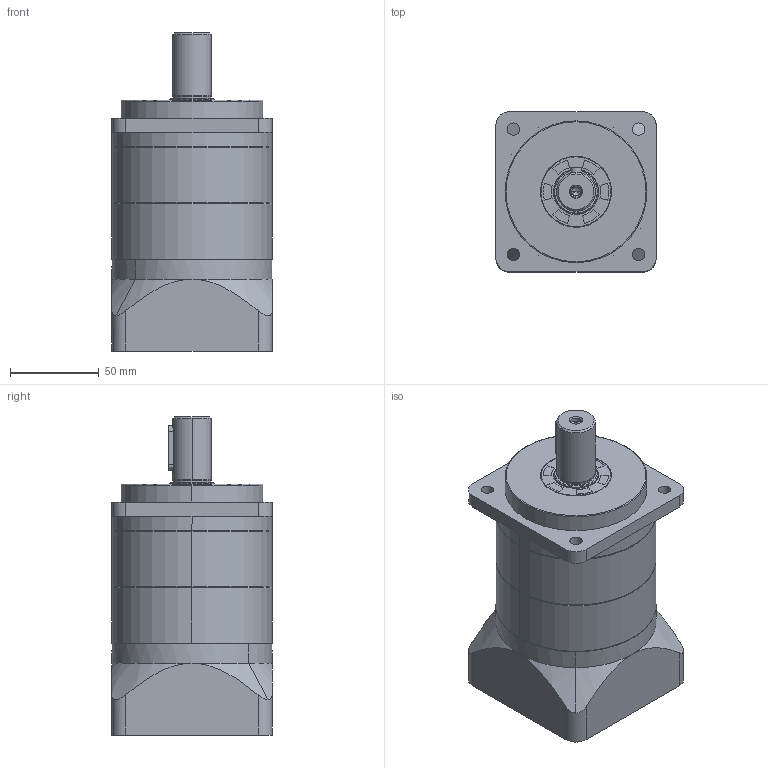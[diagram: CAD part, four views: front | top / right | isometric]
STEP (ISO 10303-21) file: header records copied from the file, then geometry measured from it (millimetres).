
FILE_DESCRIPTION (( 'STEP AP203' ), '1' );
FILE_NAME ('SA90-L2(19-70-90-M5).STEP', '2021-12-14T05:27:29', ( '' ), ( '' ), 'SwSTEP 2.0', 'SolidWorks 2016', '' );
FILE_SCHEMA (( 'CONFIG_CONTROL_DESIGN' ));
Length unit declared in the file: millimetre
Products named in the file (8): SN90; SN90-48x27x15-M6; SA90-(80x10-100-7); SN90-(19); SN90-(70-90-M5); SN90-(22x37-6x25); SA90-L2(19-70-90-M5); SN90-25x40x5
Assembly tree (8 placements, depth 2):
  SA90-L2(19-70-90-M5)
    SA90-(80x10-100-7)
    SN90-25x40x5
    SN90-(22x37-6x25)
    SN90  x2
    SN90-(70-90-M5)
    SN90-(19)
    SN90-48x27x15-M6
Bounding box: 90.5 x 90.5 x 179.5 mm (x, y, z)
Volume: 897293.6 mm3; surface area: 153614.2 mm2
Topology: 10 solids, 10 shells, 432 faces, 1099 edges, 697 vertices
Faces by surface type: cylinder 244, plane 101, cone 51, bspline 30, torus 6
Entity records: 30218 total; most frequent: CARTESIAN_POINT 19887, ORIENTED_EDGE 2054, DIRECTION 1918, EDGE_CURVE 1027, AXIS2_PLACEMENT_3D 753, VERTEX_POINT 665, EDGE_LOOP 488, VECTOR 412
